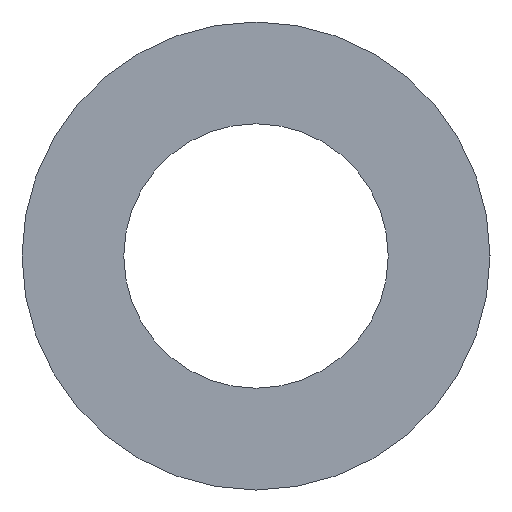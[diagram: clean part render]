
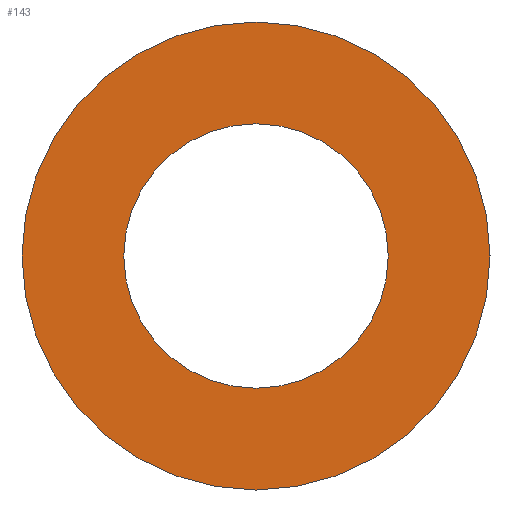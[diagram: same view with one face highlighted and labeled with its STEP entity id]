
A CAD part, left-side view. The second image highlights one B-rep face of the part: STEP entity #143.
In plain terms, the highlighted planar face has unit normal (-1, 0, 0).
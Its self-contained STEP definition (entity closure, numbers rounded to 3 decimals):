
#20=PLANE('',#174);
#32=ORIENTED_EDGE('',*,*,#56,.T.);
#33=ORIENTED_EDGE('',*,*,#55,.F.);
#55=EDGE_CURVE('',#67,#67,#79,.T.);
#56=EDGE_CURVE('',#68,#68,#80,.T.);
#67=VERTEX_POINT('',#254);
#68=VERTEX_POINT('',#257);
#79=CIRCLE('',#173,11.5);
#80=CIRCLE('',#175,6.5);
#92=EDGE_LOOP('',(#32));
#93=EDGE_LOOP('',(#33));
#116=FACE_BOUND('',#92,.T.);
#117=FACE_BOUND('',#93,.T.);
#143=ADVANCED_FACE('',(#116,#117),#20,.F.);
#173=AXIS2_PLACEMENT_3D('',#253,#207,#208);
#174=AXIS2_PLACEMENT_3D('',#255,#209,#210);
#175=AXIS2_PLACEMENT_3D('',#256,#211,#212);
#207=DIRECTION('',(1.,0.,0.));
#208=DIRECTION('',(0.,0.,-1.));
#209=DIRECTION('',(1.,0.,0.));
#210=DIRECTION('',(0.,0.,-1.));
#211=DIRECTION('',(1.,0.,0.));
#212=DIRECTION('',(0.,0.,-1.));
#253=CARTESIAN_POINT('',(-30.5,0.,0.));
#254=CARTESIAN_POINT('',(-30.5,0.,-11.5));
#255=CARTESIAN_POINT('',(-30.5,0.,0.));
#256=CARTESIAN_POINT('',(-30.5,0.,0.));
#257=CARTESIAN_POINT('',(-30.5,0.,-6.5));
